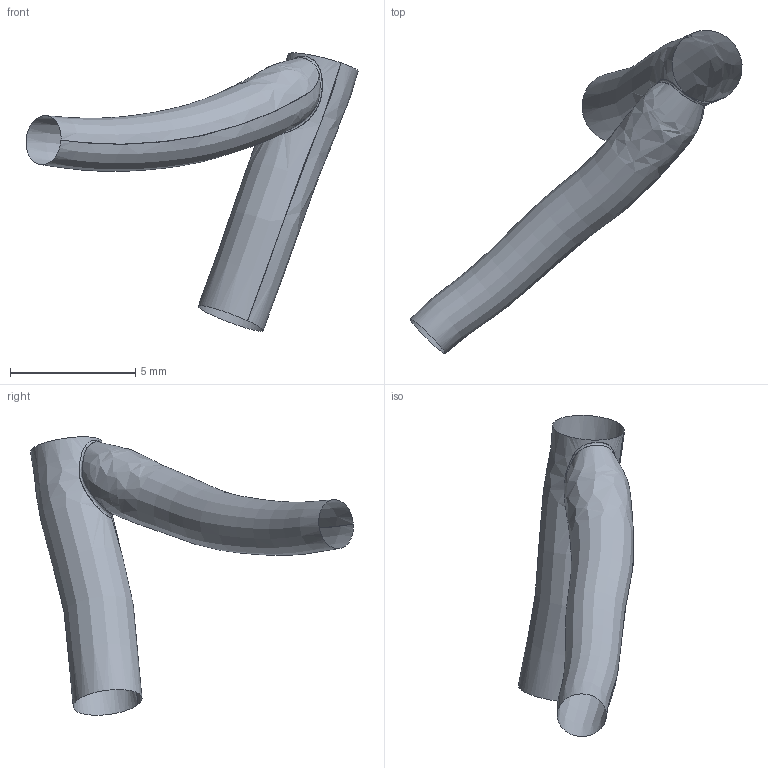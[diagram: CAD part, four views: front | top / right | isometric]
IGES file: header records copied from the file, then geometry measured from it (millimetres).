
Global section: file name: C:\Documents and Settings\Administrator\Desktop\FDA-Pig\Domestic LCA\Pig_000003\lxc.es.igs; native system: Rhinoceros ( May 19 2006 ); preprocessor: Trout Lake IGES 012 May 19 2006; date: 111205.182856; units: centimetre
Bounding box: 13.25 x 12.89 x 11.11 mm (x, y, z)
Surface area: 196.7 mm2 (no closed solid volume)
Topology: 0 solids, 0 shells, 3 faces, 43 edges, 40 vertices
Faces by surface type: bspline 3
